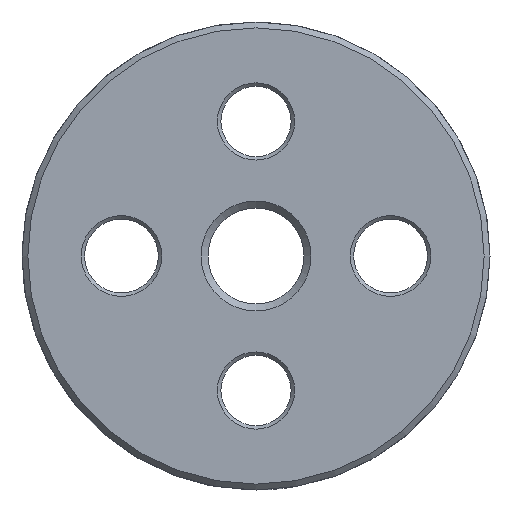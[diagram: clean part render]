
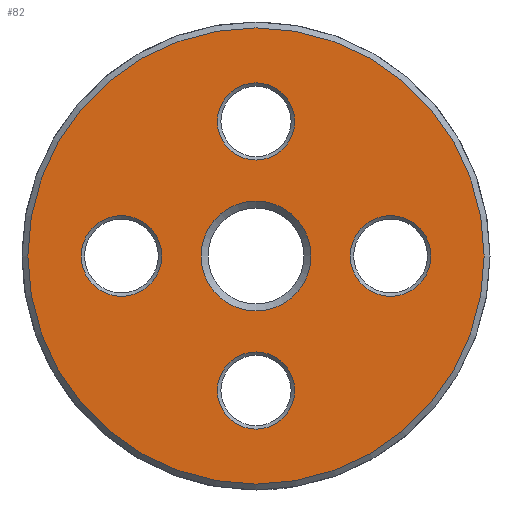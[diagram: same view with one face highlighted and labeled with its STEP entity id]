
A CAD part, front view. The second image highlights one B-rep face of the part: STEP entity #82.
In plain terms, the highlighted planar face has unit normal (0, -1, 0).
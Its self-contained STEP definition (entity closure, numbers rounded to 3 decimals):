
#82 = ADVANCED_FACE( '', ( #125, #126, #127, #128, #129, #130 ), #131, .F. );
#125 = FACE_BOUND( '', #218, .T. );
#126 = FACE_BOUND( '', #219, .T. );
#127 = FACE_BOUND( '', #220, .T. );
#128 = FACE_BOUND( '', #221, .T. );
#129 = FACE_BOUND( '', #222, .T. );
#130 = FACE_OUTER_BOUND( '', #223, .T. );
#131 = PLANE( '', #224 );
#218 = EDGE_LOOP( '', ( #357 ) );
#219 = EDGE_LOOP( '', ( #358 ) );
#220 = EDGE_LOOP( '', ( #359 ) );
#221 = EDGE_LOOP( '', ( #360 ) );
#222 = EDGE_LOOP( '', ( #361 ) );
#223 = EDGE_LOOP( '', ( #362 ) );
#224 = AXIS2_PLACEMENT_3D( '', #363, #364, #365 );
#357 = ORIENTED_EDGE( '', *, *, #553, .F. );
#358 = ORIENTED_EDGE( '', *, *, #554, .F. );
#359 = ORIENTED_EDGE( '', *, *, #555, .F. );
#360 = ORIENTED_EDGE( '', *, *, #556, .F. );
#361 = ORIENTED_EDGE( '', *, *, #557, .F. );
#362 = ORIENTED_EDGE( '', *, *, #552, .T. );
#363 = CARTESIAN_POINT( '', ( 19.5, 0., 0. ) );
#364 = DIRECTION( '', ( 0., 1., 0. ) );
#365 = DIRECTION( '', ( 0., 0., 1. ) );
#552 = EDGE_CURVE( '', #640, #640, #641, .T. );
#553 = EDGE_CURVE( '', #642, #642, #643, .T. );
#554 = EDGE_CURVE( '', #644, #644, #645, .F. );
#555 = EDGE_CURVE( '', #646, #646, #647, .T. );
#556 = EDGE_CURVE( '', #648, #648, #649, .T. );
#557 = EDGE_CURVE( '', #650, #650, #651, .T. );
#640 = VERTEX_POINT( '', #856 );
#641 = CIRCLE( '', #857, 19.5 );
#642 = VERTEX_POINT( '', #858 );
#643 = CIRCLE( '', #859, 4.7 );
#644 = VERTEX_POINT( '', #860 );
#645 = CIRCLE( '', #861, 3.45 );
#646 = VERTEX_POINT( '', #862 );
#647 = CIRCLE( '', #863, 3.3 );
#648 = VERTEX_POINT( '', #864 );
#649 = CIRCLE( '', #865, 3.3 );
#650 = VERTEX_POINT( '', #866 );
#651 = CIRCLE( '', #867, 3.45 );
#856 = CARTESIAN_POINT( '', ( 0., 0., -19.5 ) );
#857 = AXIS2_PLACEMENT_3D( '', #980, #981, #982 );
#858 = CARTESIAN_POINT( '', ( 0., 0., -4.7 ) );
#859 = AXIS2_PLACEMENT_3D( '', #983, #984, #985 );
#860 = CARTESIAN_POINT( '', ( 11.5, 0., 3.45 ) );
#861 = AXIS2_PLACEMENT_3D( '', #986, #987, #988 );
#862 = CARTESIAN_POINT( '', ( 0., 0., 8.2 ) );
#863 = AXIS2_PLACEMENT_3D( '', #989, #990, #991 );
#864 = CARTESIAN_POINT( '', ( 0., 0., -14.8 ) );
#865 = AXIS2_PLACEMENT_3D( '', #992, #993, #994 );
#866 = CARTESIAN_POINT( '', ( -11.5, 0., -3.45 ) );
#867 = AXIS2_PLACEMENT_3D( '', #995, #996, #997 );
#980 = CARTESIAN_POINT( '', ( 0., 0., 0. ) );
#981 = DIRECTION( '', ( 0., -1., 0. ) );
#982 = DIRECTION( '', ( 0., 0., -1. ) );
#983 = CARTESIAN_POINT( '', ( 0., 0., 0. ) );
#984 = DIRECTION( '', ( 0., -1., 0. ) );
#985 = DIRECTION( '', ( 0., 0., -1. ) );
#986 = CARTESIAN_POINT( '', ( 11.5, 0., 0. ) );
#987 = DIRECTION( '', ( 0., 1., 0. ) );
#988 = DIRECTION( '', ( 0., 0., 1. ) );
#989 = CARTESIAN_POINT( '', ( 0., 0., 11.5 ) );
#990 = DIRECTION( '', ( 0., -1., 0. ) );
#991 = DIRECTION( '', ( 0., 0., -1. ) );
#992 = CARTESIAN_POINT( '', ( 0., 0., -11.5 ) );
#993 = DIRECTION( '', ( 0., -1., 0. ) );
#994 = DIRECTION( '', ( 0., 0., -1. ) );
#995 = CARTESIAN_POINT( '', ( -11.5, 0., 0. ) );
#996 = DIRECTION( '', ( 0., -1., 0. ) );
#997 = DIRECTION( '', ( 0., 0., -1. ) );
